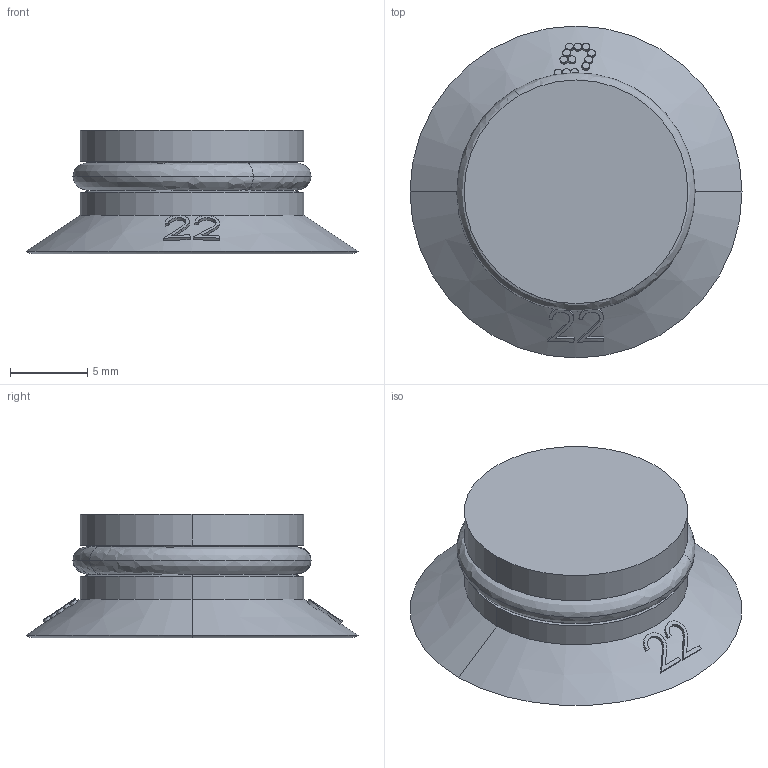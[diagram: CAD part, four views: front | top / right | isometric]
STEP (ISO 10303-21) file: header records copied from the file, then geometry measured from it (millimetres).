
FILE_DESCRIPTION (( 'STEP AP214' ), '1' );
FILE_NAME ('2321971.STEP', '2020-11-27T13:20:07', ( '' ), ( '' ), 'SwSTEP 2.0', 'SolidWorks 2020', '' );
FILE_SCHEMA (( 'AUTOMOTIVE_DESIGN' ));
Length unit declared in the file: millimetre
Products named in the file (2): 2321971-AS01; 2321971
Assembly tree (1 placements, depth 2):
  2321971
    2321971-AS01
Bounding box: 21.52 x 21.52 x 8 mm (x, y, z)
Volume: 1590 mm3; surface area: 1324.9 mm2
Topology: 2 solids, 2 shells, 82 faces, 182 edges, 118 vertices
Faces by surface type: bspline 52, cone 16, torus 6, cylinder 4, plane 4
Entity records: 6112 total; most frequent: CARTESIAN_POINT 3776, ORIENTED_EDGE 364, EDGE_CURVE 182, B_SPLINE_CURVE_WITH_KNOTS 144, DIRECTION 130, VERTEX_POINT 118, EDGE_LOOP 98, UNCERTAINTY_MEASURE_WITH_UNIT 84
